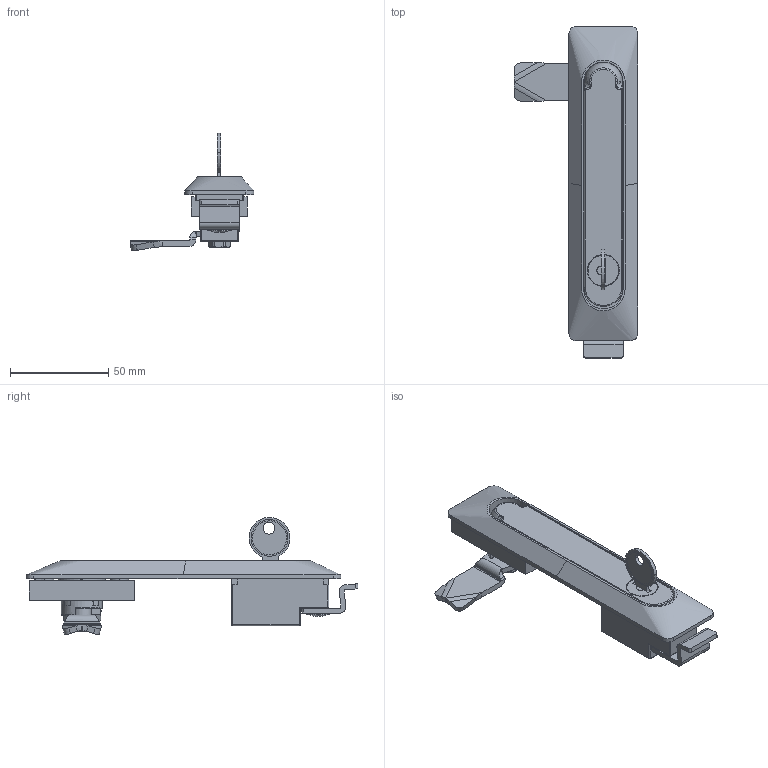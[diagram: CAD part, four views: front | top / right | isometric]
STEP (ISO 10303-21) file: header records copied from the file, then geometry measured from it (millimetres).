
FILE_DESCRIPTION (( 'STEP AP214' ), '1' );
FILE_NAME ('RS150.STEP', '2011-11-21T12:01:50', ( '£ukasz Cieæka' ), ( '' ), 'SwSTEP 2.0', 'SolidWorks 2010', '' );
FILE_SCHEMA (( 'AUTOMOTIVE_DESIGN' ));
Length unit declared in the file: millimetre
Products named in the file (19): 1.RS150.009; 1C.J-0012_Default; wladka_Default; 1.RS150.010_Default; RS150; 1.RS150.007_Default; wkrêt_Default; Wkrêt M3; Sprêzyna sworznia_Default; 1.RS150.002; 1.RS150.006_Default; 1.RS150.005; Klucz 1333-surówka pop_Default; 1.RS150.008; 1.RS150.004; 1.RS150.003; M6 x 6.5 z ³bem podk³adkowym_Default; Sprê¿ynka zamka ZZ1_Default; wkrêt pod blace_Default
Assembly tree (19 placements, depth 2):
  RS150
    wkrêt_Default  x2
    Wkrêt M3
    1C.J-0012_Default
    wladka_Default
    1.RS150.008
    1.RS150.007_Default
    1.RS150.006_Default
    1.RS150.010_Default
    Sprêzyna sworznia_Default
    M6 x 6.5 z ³bem podk³adkowym_Default
    1.RS150.002
    1.RS150.005
    1.RS150.009
    1.RS150.003
    wkrêt pod blace_Default
    1.RS150.004
    Klucz 1333-surówka pop_Default
    Sprê¿ynka zamka ZZ1_Default
Bounding box: 62.83 x 168.63 x 59.49 mm (x, y, z)
Volume: 65807.9 mm3; surface area: 51884.5 mm2
Topology: 20 solids, 20 shells, 773 faces, 1952 edges, 1226 vertices
Faces by surface type: plane 335, cylinder 247, bspline 69, cone 67, torus 32, sphere 23
Entity records: 43713 total; most frequent: CARTESIAN_POINT 17028, ORIENTED_EDGE 3782, DIRECTION 3567, EDGE_CURVE 1891, AXIS2_PLACEMENT_3D 1320, VERTEX_POINT 1196, LINE 927, VECTOR 927
